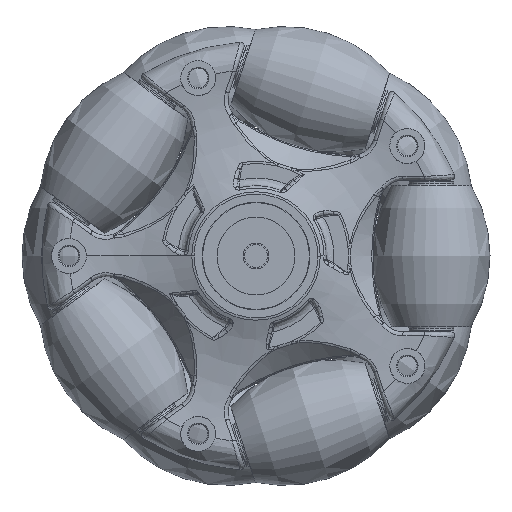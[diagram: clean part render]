
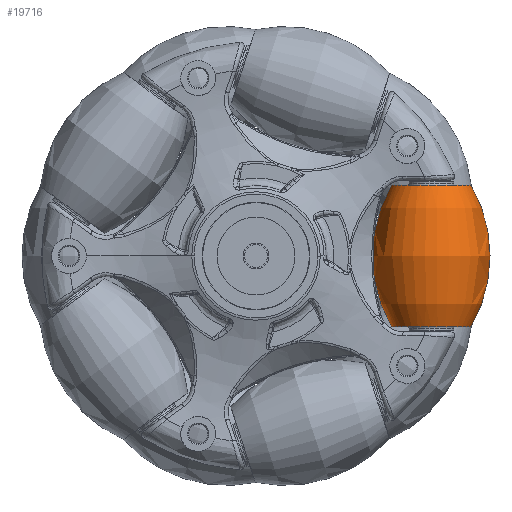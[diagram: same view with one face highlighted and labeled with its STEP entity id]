
A CAD part, front view. The second image highlights one B-rep face of the part: STEP entity #19716.
In plain terms, the highlighted toroidal (fillet/blend) face has major radius 10.573 mm and minor radius 18.1 mm.
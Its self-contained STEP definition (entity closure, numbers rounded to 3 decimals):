
#5113 = DIRECTION ( 'NONE',  ( 0., 0., 1. ) ) ;
#5114 = DIRECTION ( 'NONE',  ( 0., 1., 0. ) ) ;
#5115 = AXIS2_PLACEMENT_3D ( 'NONE', #5126, #5114, #5113 ) ;
#5126 = CARTESIAN_POINT ( 'NONE',  ( 22.5, -9.05, 0. ) ) ;
#5128 = CIRCLE ( 'NONE', #5115, 5.102 ) ;
#5147 = CARTESIAN_POINT ( 'NONE',  ( 22.5, 0., 0. ) ) ;
#5149 = DIRECTION ( 'NONE',  ( 0., 1., 0. ) ) ;
#5152 = TOROIDAL_SURFACE ( 'NONE', #5171, -10.573, 18.1 ) ;
#5161 = FACE_OUTER_BOUND ( 'NONE', #19717, .T. ) ;
#5171 = AXIS2_PLACEMENT_3D ( 'NONE', #5147, #5149, #5188 ) ;
#5188 = DIRECTION ( 'NONE',  ( -1., 0., 0. ) ) ;
#5571 = DIRECTION ( 'NONE',  ( 0., 0., 1. ) ) ;
#5572 = DIRECTION ( 'NONE',  ( 0., -1., 0. ) ) ;
#5573 = AXIS2_PLACEMENT_3D ( 'NONE', #5582, #5572, #5571 ) ;
#5582 = CARTESIAN_POINT ( 'NONE',  ( 22.5, 9.05, 0. ) ) ;
#5585 = CIRCLE ( 'NONE', #5573, 5.102 ) ;
#9397 = CARTESIAN_POINT ( 'NONE',  ( 27.602, 9.05, 0. ) ) ;
#9450 = CARTESIAN_POINT ( 'NONE',  ( 11.927, 0., 0. ) ) ;
#9454 = AXIS2_PLACEMENT_3D ( 'NONE', #9450, #9505, #9504 ) ;
#9463 = CIRCLE ( 'NONE', #9454, 18.1 ) ;
#9487 = DIRECTION ( 'NONE',  ( -1., 0., 0. ) ) ;
#9488 = DIRECTION ( 'NONE',  ( 0., 0., -1. ) ) ;
#9489 = CARTESIAN_POINT ( 'NONE',  ( 33.073, 0., 0. ) ) ;
#9499 = CIRCLE ( 'NONE', #9506, 18.1 ) ;
#9504 = DIRECTION ( 'NONE',  ( 1., 0., 0. ) ) ;
#9505 = DIRECTION ( 'NONE',  ( 0., 0., 1. ) ) ;
#9506 = AXIS2_PLACEMENT_3D ( 'NONE', #9489, #9488, #9487 ) ;
#9828 = CARTESIAN_POINT ( 'NONE',  ( 17.398, 9.05, 0. ) ) ;
#9829 = CARTESIAN_POINT ( 'NONE',  ( 17.398, -9.05, 0. ) ) ;
#9830 = CARTESIAN_POINT ( 'NONE',  ( 27.602, -9.05, 0. ) ) ;
#19671 = ORIENTED_EDGE ( 'NONE', *, *, #19932, .T. ) ;
#19672 = EDGE_CURVE ( 'NONE', #21719, #21730, #5128, .T. ) ;
#19714 = ORIENTED_EDGE ( 'NONE', *, *, #19672, .T. ) ;
#19715 = ORIENTED_EDGE ( 'NONE', *, *, #21491, .T. ) ;
#19716 = ADVANCED_FACE ( 'NONE', ( #5161 ), #5152, .T. ) ;
#19717 = EDGE_LOOP ( 'NONE', ( #19719, #19714, #19715, #19671 ) ) ;
#19719 = ORIENTED_EDGE ( 'NONE', *, *, #21470, .F. ) ;
#19932 = EDGE_CURVE ( 'NONE', #21733, #21396, #5585, .T. ) ;
#21396 = VERTEX_POINT ( 'NONE', #9397 ) ;
#21470 = EDGE_CURVE ( 'NONE', #21719, #21396, #9463, .T. ) ;
#21491 = EDGE_CURVE ( 'NONE', #21730, #21733, #9499, .T. ) ;
#21719 = VERTEX_POINT ( 'NONE', #9830 ) ;
#21730 = VERTEX_POINT ( 'NONE', #9829 ) ;
#21733 = VERTEX_POINT ( 'NONE', #9828 ) ;
